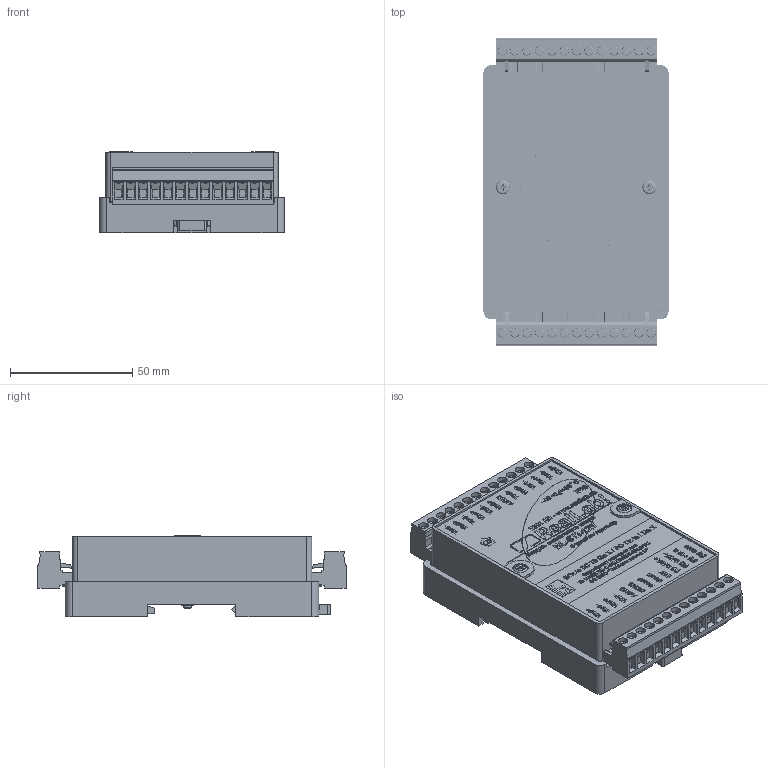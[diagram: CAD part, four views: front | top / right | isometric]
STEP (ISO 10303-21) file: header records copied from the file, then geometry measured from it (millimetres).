
FILE_DESCRIPTION(('STEP AP214'), '1');
FILE_NAME('NL-8TI-12V', '', ('UNSPECIFIED'), ('UNSPECIFIED'), 'C3D Converter', 'C3D Toolkit', '');
FILE_SCHEMA(('AUTOMOTIVE_DESIGN { 1 0 10303 214 3 1 1}'));
Length unit declared in the file: millimetre
Products named in the file (1): NL-8TI-12V
Bounding box: 75.8 x 126.21 x 33.5 mm (x, y, z)
Volume: 85373.6 mm3; surface area: 90007.2 mm2
Topology: 15 solids, 15 shells, 7528 faces, 20560 edges, 13629 vertices
Faces by surface type: plane 3934, extrusion 2905, cylinder 502, torus 118, cone 68, bspline 1
Full cylindrical faces by diameter (mm): 1.4 x26, 2.5 x4, 3 x30, 3.38 x2, 3.6 x4, 3.95 x26, 4 x2, 5.6 x2, 6.3 x2, 6.4 x2, 8 x2
Entity records: 345295 total; most frequent: CARTESIAN_POINT 105205, ORIENTED_EDGE 40750, DIRECTION 27648, EDGE_CURVE 20375, VECTOR 15454, VERTEX_POINT 14373, LINE 12549, B_SPLINE_CURVE_WITH_KNOTS 9223
